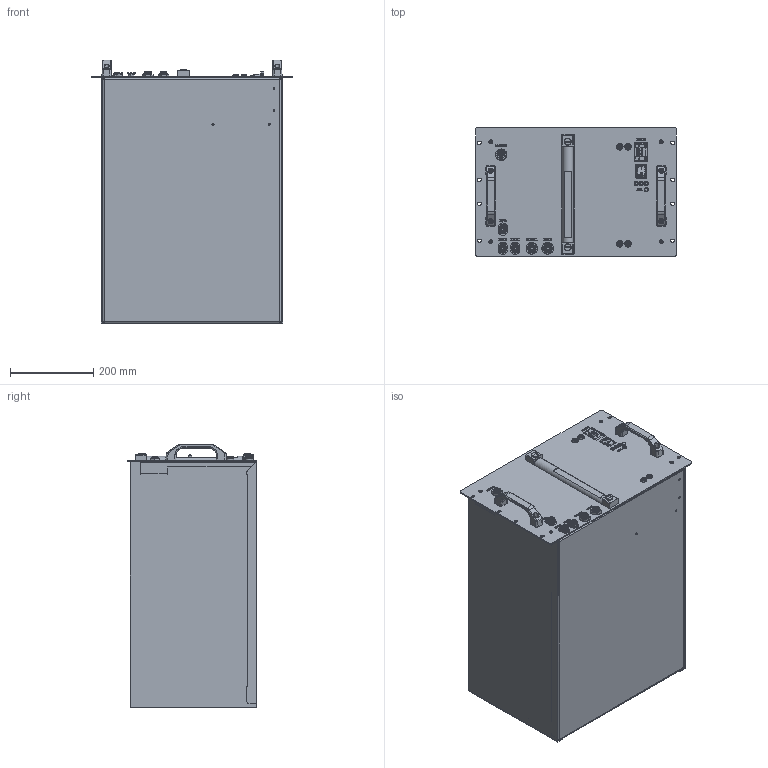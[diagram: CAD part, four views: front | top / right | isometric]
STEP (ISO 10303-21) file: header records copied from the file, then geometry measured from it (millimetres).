
FILE_DESCRIPTION(/* description */ ('WATER TANK MODULE 2.1 - ASSEMBLY'),/* implementation_level */ '2;1');
FILE_NAME(/* name */ '\\actasrv3\Enapter\2_Products_Engineering\R&D\WT21\1_Mechanical\1_CAD\WTM21-DRW-A1000-REV02.stp',/* time_stamp */ '2021-02-11T09:42:17+01:00',/* author */ ('lorenzo.giobbi'),/* organization */ (''),/* preprocessor_version */ 'ST-DEVELOPER v18.1',/* originating_system */ 'Autodesk Inventor 2021',/* authorisation */ 'MOD');
FILE_SCHEMA (('AUTOMOTIVE_DESIGN { 1 0 10303 214 3 1 1 }'));
Products named in the file (26): WTM21-DRW-A1000-REV02; WTM21-DRW-A0001-REV02; WTM21-DRW-00001-REV01; WTM21-DRW-00004-REV01; ELE21-DRW-00049-REV00; ELE21-DRW-00050-REV00; Schurter 3101.0010; ANT-24G-S18-SMAM; Elesa HCZ.254-P-VT-M12; TE Conn. 1634201-2; Phoenix Contact 1840560; CPC PLCD120M10; RS 7001962; RS 7001968; RS 7001971; ABU 1010M; ABU 0808M; AMCB 0804M; CP100_030_50; CP100_040_50; 10447A1_M4_X; 10447A1_M6_X; ATEU 1010M; WTM21-DRW-00002-REV02; WTM21-DRW-00003-REV01; Elesa RHRG-1S_120_84
Assembly tree (55 placements, depth 3):
  WTM21-DRW-A1000-REV02
    WTM21-DRW-A0001-REV02
      WTM21-DRW-00001-REV01
      WTM21-DRW-00004-REV01  x2
      ELE21-DRW-00049-REV00
      ELE21-DRW-00050-REV00
      Schurter 3101.0010  x4
      ANT-24G-S18-SMAM
      Elesa HCZ.254-P-VT-M12
      TE Conn. 1634201-2
      Phoenix Contact 1840560
      CPC PLCD120M10  x3
      RS 7001962
      RS 7001968
      RS 7001971
      ABU 1010M  x2
      ABU 0808M
      AMCB 0804M  x2
      ATEU 1010M  x2
      10447A1_M4_X  x16
      CP100_030_50  x2
      CP100_040_50  x2
      10447A1_M6_X  x4
    WTM21-DRW-00002-REV02
    WTM21-DRW-00003-REV01
    Elesa RHRG-1S_120_84  x2
Bounding box: 482 x 310 x 634.3 mm (x, y, z)
Volume: 2498359.2 mm3; surface area: 2932361.5 mm2
Topology: 68 solids, 68 shells, 6851 faces, 17743 edges, 11601 vertices
Faces by surface type: plane 3912, bspline 1425, cylinder 1266, cone 175, torus 50, sphere 23
Full cylindrical faces by diameter (mm): 0.272 x4, 0.32 x4, 0.457 x1, 1.27 x3, 2.286 x3, 3 x6, 3.2 x4, 3.242 x16, 3.4 x4, 3.8 x3, 4 x10, 4.5 x6, 4.775 x3, 4.917 x4, 5 x15, 5.461 x3, 5.5 x5, 5.537 x3, 6 x4, 6.5 x6, 6.6 x4, 7 x9, 7.468 x3, 7.5 x3, 7.8 x2, 8 x8, 8.2 x4, 9.2 x2, 9.3 x4, 9.4 x2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
Entity records: 134734 total; most frequent: CARTESIAN_POINT 51791, ORIENTED_EDGE 17824, DIRECTION 14731, EDGE_CURVE 8912, VERTEX_POINT 5792, LINE 5667, VECTOR 5667, AXIS2_PLACEMENT_3D 4532
